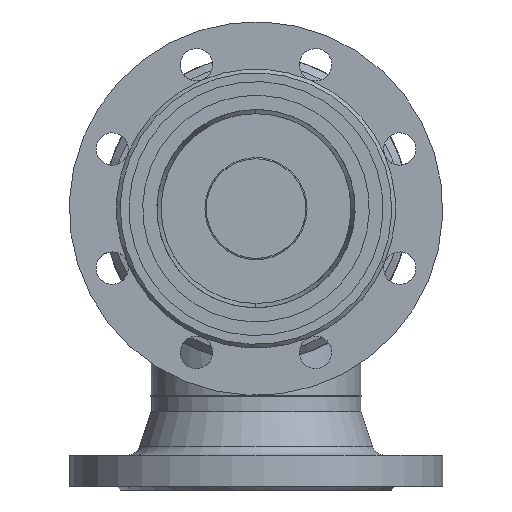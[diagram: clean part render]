
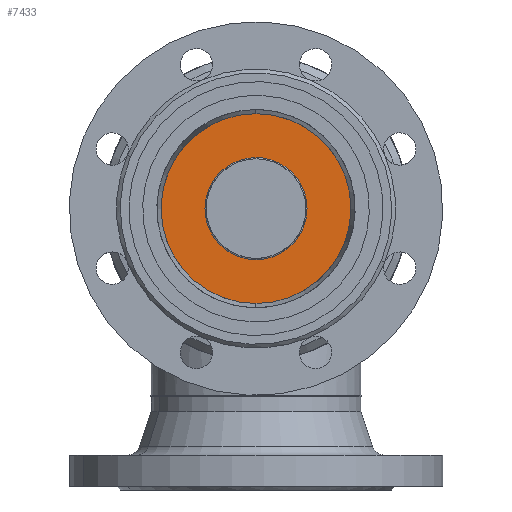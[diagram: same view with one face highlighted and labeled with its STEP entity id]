
A CAD part, front view. The second image highlights one B-rep face of the part: STEP entity #7433.
In plain terms, the highlighted planar face has unit normal (0, -1, 0) as drawn and (0, 0, 1) by its records, which use the part's own axes.
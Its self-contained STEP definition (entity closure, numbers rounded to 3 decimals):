
#241 = FACE_BOUND ( 'NONE', #5339, .T. ) ;
#242 = FACE_OUTER_BOUND ( 'NONE', #1648, .T. ) ;
#243 = PLANE ( 'NONE',  #244 ) ;
#244 = AXIS2_PLACEMENT_3D ( 'NONE', #245, #246, #247 ) ;
#245 = CARTESIAN_POINT ( 'NONE',  ( 0., 0., 16. ) ) ;
#246 = DIRECTION ( 'NONE',  ( 0., 0., 1. ) ) ;
#247 = DIRECTION ( 'NONE',  ( 1., 0., 0. ) ) ;
#375 = ORIENTED_EDGE ( 'NONE', *, *, #5093, .F. ) ;
#477 = CARTESIAN_POINT ( 'NONE',  ( -40., 0., 16. ) ) ;
#502 = EDGE_CURVE ( 'NONE', #521, #4727, #5871, .T. ) ;
#521 = VERTEX_POINT ( 'NONE', #5889 ) ;
#1648 = EDGE_LOOP ( 'NONE', ( #1871, #2209 ) ) ;
#1871 = ORIENTED_EDGE ( 'NONE', *, *, #4869, .T. ) ;
#2209 = ORIENTED_EDGE ( 'NONE', *, *, #6611, .T. ) ;
#2774 = CARTESIAN_POINT ( 'NONE',  ( -85., 0., 16. ) ) ;
#2923 = CARTESIAN_POINT ( 'NONE',  ( 85., 0., 16. ) ) ;
#4727 = VERTEX_POINT ( 'NONE', #477 ) ;
#4869 = EDGE_CURVE ( 'NONE', #5321, #5346, #5720, .T. ) ;
#5093 = EDGE_CURVE ( 'NONE', #4727, #521, #8112, .T. ) ;
#5321 = VERTEX_POINT ( 'NONE', #2774 ) ;
#5339 = EDGE_LOOP ( 'NONE', ( #8726, #375 ) ) ;
#5346 = VERTEX_POINT ( 'NONE', #2923 ) ;
#5720 = CIRCLE ( 'NONE', #5721, 85. ) ;
#5721 = AXIS2_PLACEMENT_3D ( 'NONE', #5722, #5723, #5724 ) ;
#5722 = CARTESIAN_POINT ( 'NONE',  ( 0., 0., 16. ) ) ;
#5723 = DIRECTION ( 'NONE',  ( 0., 0., 1. ) ) ;
#5724 = DIRECTION ( 'NONE',  ( 1., 0., 0. ) ) ;
#5871 = CIRCLE ( 'NONE', #5872, 40. ) ;
#5872 = AXIS2_PLACEMENT_3D ( 'NONE', #5873, #5874, #5875 ) ;
#5873 = CARTESIAN_POINT ( 'NONE',  ( 0., 0., 16. ) ) ;
#5874 = DIRECTION ( 'NONE',  ( 0., 0., 1. ) ) ;
#5875 = DIRECTION ( 'NONE',  ( 1., 0., 0. ) ) ;
#5889 = CARTESIAN_POINT ( 'NONE',  ( 40., 0., 16. ) ) ;
#6611 = EDGE_CURVE ( 'NONE', #5346, #5321, #7520, .T. ) ;
#7433 = ADVANCED_FACE ( 'NONE', ( #241, #242 ), #243, .T. ) ;
#7520 = CIRCLE ( 'NONE', #7521, 85. ) ;
#7521 = AXIS2_PLACEMENT_3D ( 'NONE', #7522, #7523, #7524 ) ;
#7522 = CARTESIAN_POINT ( 'NONE',  ( 0., 0., 16. ) ) ;
#7523 = DIRECTION ( 'NONE',  ( 0., 0., 1. ) ) ;
#7524 = DIRECTION ( 'NONE',  ( 1., 0., 0. ) ) ;
#8112 = CIRCLE ( 'NONE', #8113, 40. ) ;
#8113 = AXIS2_PLACEMENT_3D ( 'NONE', #8114, #8115, #8116 ) ;
#8114 = CARTESIAN_POINT ( 'NONE',  ( 0., 0., 16. ) ) ;
#8115 = DIRECTION ( 'NONE',  ( 0., 0., 1. ) ) ;
#8116 = DIRECTION ( 'NONE',  ( 1., 0., 0. ) ) ;
#8726 = ORIENTED_EDGE ( 'NONE', *, *, #502, .F. ) ;
